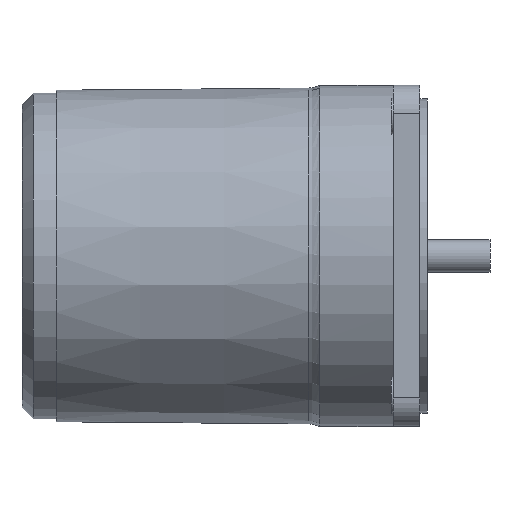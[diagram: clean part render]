
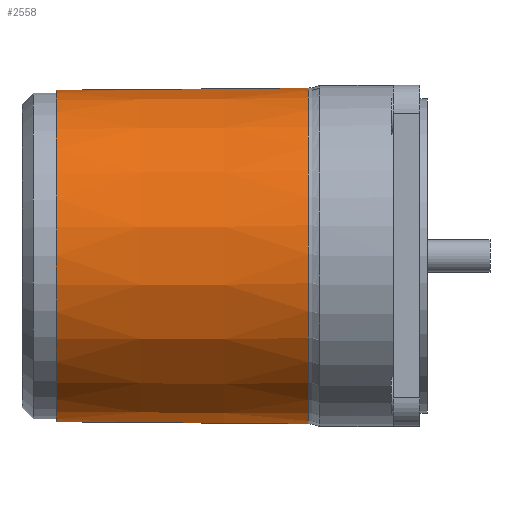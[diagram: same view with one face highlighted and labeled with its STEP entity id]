
A CAD part, top view. The second image highlights one B-rep face of the part: STEP entity #2558.
In plain terms, the highlighted conical face has half-angle 0.48 degrees and reference radius 44.029 mm.
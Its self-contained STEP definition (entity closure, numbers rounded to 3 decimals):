
#2168=CARTESIAN_POINT('',(9.,43.75,0.0));
#2169=VERTEX_POINT('',#2168);
#2170=CARTESIAN_POINT('',(9.,0.,0.0));
#2171=DIRECTION('',(1.0,0.0,0.0));
#2172=DIRECTION('',(0.0,1.0,0.0));
#2173=AXIS2_PLACEMENT_3D('',#2170,#2171,#2172);
#2174=CIRCLE('',#2173,43.75);
#2175=EDGE_CURVE('',#2169,#2169,#2174,.T.);
#2321=CARTESIAN_POINT('',(75.559,29.222,-33.306));
#2322=VERTEX_POINT('',#2321);
#2482=CARTESIAN_POINT('',(75.559,-29.222,-33.306));
#2483=VERTEX_POINT('',#2482);
#2494=CARTESIAN_POINT('',(75.559,0.,0.0));
#2495=DIRECTION('',(1.0,0.0,0.0));
#2496=DIRECTION('',(0.0,1.0,0.0));
#2497=AXIS2_PLACEMENT_3D('',#2494,#2495,#2496);
#2498=CIRCLE('',#2497,44.308);
#2499=EDGE_CURVE('',#2322,#2483,#2498,.T.);
#2504=CARTESIAN_POINT('',(42.279,0.,0.0));
#2505=DIRECTION('',(1.0,0.,0.0));
#2506=DIRECTION('',(0.0,1.0,0.0));
#2507=AXIS2_PLACEMENT_3D('',#2504,#2505,#2506);
#2508=CONICAL_SURFACE('',#2507,44.029,0.48);
#2509=CARTESIAN_POINT('',(42.504,-29.21,-32.947));
#2510=VERTEX_POINT('',#2509);
#2511=CARTESIAN_POINT('',(43.,-29.21,-32.952));
#2512=VERTEX_POINT('',#2511);
#2513=CARTESIAN_POINT('',(42.504,-29.21,-32.947));
#2514=CARTESIAN_POINT('',(42.669,-29.21,-32.949));
#2515=CARTESIAN_POINT('',(42.835,-29.21,-32.95));
#2516=CARTESIAN_POINT('',(43.,-29.21,-32.952));
#2517=B_SPLINE_CURVE_WITH_KNOTS('',3,(#2513,#2514,#2515,#2516),.UNSPECIFIED.,.F.,.U.,(4,4),(3.648,3.698),.UNSPECIFIED.);
#2518=EDGE_CURVE('',#2510,#2512,#2517,.T.);
#2519=ORIENTED_EDGE('',*,*,#2518,.T.);
#2520=CARTESIAN_POINT('',(75.559,-29.222,-33.306));
#2521=CARTESIAN_POINT('',(64.706,-29.218,-33.188));
#2522=CARTESIAN_POINT('',(53.853,-29.214,-33.07));
#2523=CARTESIAN_POINT('',(43.,-29.21,-32.952));
#2524=B_SPLINE_CURVE_WITH_KNOTS('',3,(#2520,#2521,#2522,#2523),.UNSPECIFIED.,.F.,.U.,(4,4),(-6.954,-3.698),.UNSPECIFIED.);
#2525=EDGE_CURVE('',#2483,#2512,#2524,.T.);
#2526=ORIENTED_EDGE('',*,*,#2525,.F.);
#2527=ORIENTED_EDGE('',*,*,#2499,.F.);
#2528=CARTESIAN_POINT('',(43.,29.21,-32.952));
#2529=VERTEX_POINT('',#2528);
#2530=CARTESIAN_POINT('',(43.,29.21,-32.952));
#2531=CARTESIAN_POINT('',(53.853,29.214,-33.07));
#2532=CARTESIAN_POINT('',(64.706,29.218,-33.188));
#2533=CARTESIAN_POINT('',(75.559,29.222,-33.306));
#2534=B_SPLINE_CURVE_WITH_KNOTS('',3,(#2530,#2531,#2532,#2533),.UNSPECIFIED.,.F.,.U.,(4,4),(-3.256,0.0),.UNSPECIFIED.);
#2535=EDGE_CURVE('',#2529,#2322,#2534,.T.);
#2536=ORIENTED_EDGE('',*,*,#2535,.F.);
#2537=CARTESIAN_POINT('',(42.504,29.21,-32.947));
#2538=VERTEX_POINT('',#2537);
#2539=CARTESIAN_POINT('',(43.,29.21,-32.952));
#2540=CARTESIAN_POINT('',(42.835,29.21,-32.95));
#2541=CARTESIAN_POINT('',(42.669,29.21,-32.949));
#2542=CARTESIAN_POINT('',(42.504,29.21,-32.947));
#2543=B_SPLINE_CURVE_WITH_KNOTS('',3,(#2539,#2540,#2541,#2542),.UNSPECIFIED.,.F.,.U.,(4,4),(3.256,3.306),.UNSPECIFIED.);
#2544=EDGE_CURVE('',#2529,#2538,#2543,.T.);
#2545=ORIENTED_EDGE('',*,*,#2544,.T.);
#2546=CARTESIAN_POINT('',(42.504,0.,0.0));
#2547=DIRECTION('',(1.0,0.0,0.0));
#2548=DIRECTION('',(0.0,0.0,-1.0));
#2549=AXIS2_PLACEMENT_3D('',#2546,#2547,#2548);
#2550=CIRCLE('',#2549,44.031);
#2551=EDGE_CURVE('',#2510,#2538,#2550,.T.);
#2552=ORIENTED_EDGE('',*,*,#2551,.F.);
#2553=EDGE_LOOP('',(#2519,#2526,#2527,#2536,#2545,#2552));
#2554=FACE_OUTER_BOUND('',#2553,.T.);
#2555=ORIENTED_EDGE('',*,*,#2175,.T.);
#2556=EDGE_LOOP('',(#2555));
#2557=FACE_BOUND('',#2556,.T.);
#2558=ADVANCED_FACE('',(#2554,#2557),#2508,.T.);
